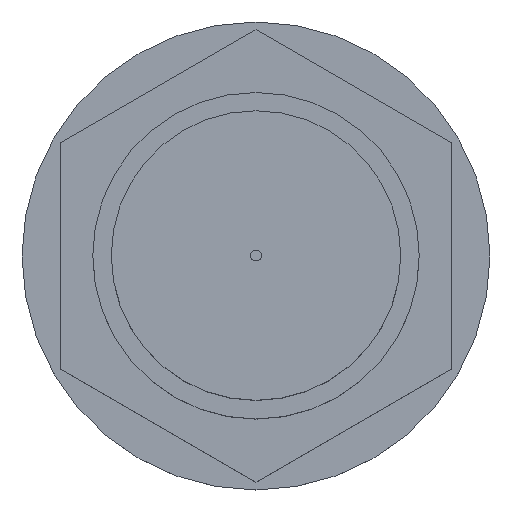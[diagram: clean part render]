
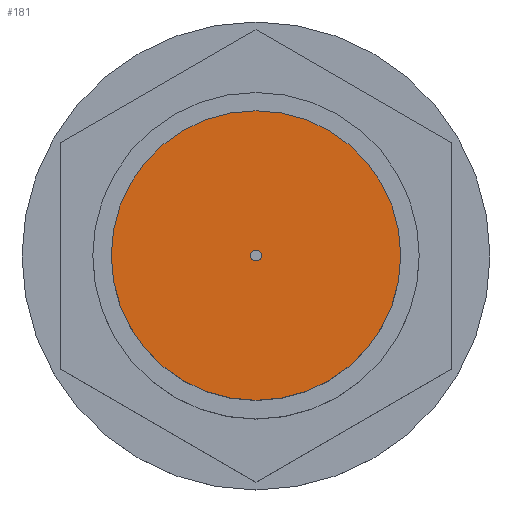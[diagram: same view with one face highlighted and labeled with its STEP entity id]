
A CAD part, top view. The second image highlights one B-rep face of the part: STEP entity #181.
In plain terms, the highlighted planar face has unit normal (0, 0, 1) as drawn and (-1, 0, 0) by its records, which use the part's own axes.
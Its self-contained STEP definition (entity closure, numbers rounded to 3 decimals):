
#21 = VERTEX_POINT ( 'NONE', #1221 ) ;
#23 = EDGE_CURVE ( 'NONE', #24, #21, #1220, .T. ) ;
#24 = VERTEX_POINT ( 'NONE', #1215 ) ;
#52 = VERTEX_POINT ( 'NONE', #513 ) ;
#95 = EDGE_LOOP ( 'NONE', ( #96, #97 ) ) ;
#96 = ORIENTED_EDGE ( 'NONE', *, *, #23, .T. ) ;
#97 = ORIENTED_EDGE ( 'NONE', *, *, #98, .T. ) ;
#98 = EDGE_CURVE ( 'NONE', #21, #24, #638, .T. ) ;
#153 = VERTEX_POINT ( 'NONE', #682 ) ;
#155 = EDGE_CURVE ( 'NONE', #153, #52, #680, .T. ) ;
#181 = ADVANCED_FACE ( 'NONE', ( #604, #606 ), #611, .F. ) ;
#182 = EDGE_LOOP ( 'NONE', ( #183, #185 ) ) ;
#183 = ORIENTED_EDGE ( 'NONE', *, *, #184, .F. ) ;
#184 = EDGE_CURVE ( 'NONE', #52, #153, #600, .T. ) ;
#185 = ORIENTED_EDGE ( 'NONE', *, *, #155, .F. ) ;
#513 = CARTESIAN_POINT ( 'NONE',  ( 0., 0., 13.3 ) ) ;
#596 = DIRECTION ( 'NONE',  ( 0., 0., -1. ) ) ;
#597 = DIRECTION ( 'NONE',  ( 1., 0., 0. ) ) ;
#598 = CARTESIAN_POINT ( 'NONE',  ( 0., 0., 0. ) ) ;
#599 = AXIS2_PLACEMENT_3D ( 'NONE', #598, #597, #596 ) ;
#600 = CIRCLE ( 'NONE', #599, 13.3 ) ;
#601 = DIRECTION ( 'NONE',  ( 0., 0., -1. ) ) ;
#602 = DIRECTION ( 'NONE',  ( 1., 0., 0. ) ) ;
#603 = CARTESIAN_POINT ( 'NONE',  ( 0., 0., 0. ) ) ;
#604 = FACE_OUTER_BOUND ( 'NONE', #182, .T. ) ;
#605 = AXIS2_PLACEMENT_3D ( 'NONE', #603, #602, #601 ) ;
#606 = FACE_BOUND ( 'NONE', #95, .T. ) ;
#611 = PLANE ( 'NONE',  #605 ) ;
#634 = DIRECTION ( 'NONE',  ( 0., 0., -1. ) ) ;
#635 = DIRECTION ( 'NONE',  ( 1., 0., 0. ) ) ;
#636 = CARTESIAN_POINT ( 'NONE',  ( 0., 0., 0. ) ) ;
#637 = AXIS2_PLACEMENT_3D ( 'NONE', #636, #635, #634 ) ;
#638 = CIRCLE ( 'NONE', #637, 0.5 ) ;
#676 = DIRECTION ( 'NONE',  ( 0., 0., -1. ) ) ;
#677 = DIRECTION ( 'NONE',  ( 1., 0., 0. ) ) ;
#678 = CARTESIAN_POINT ( 'NONE',  ( 0., 0., 0. ) ) ;
#679 = AXIS2_PLACEMENT_3D ( 'NONE', #678, #677, #676 ) ;
#680 = CIRCLE ( 'NONE', #679, 13.3 ) ;
#682 = CARTESIAN_POINT ( 'NONE',  ( 0., 0., -13.3 ) ) ;
#1215 = CARTESIAN_POINT ( 'NONE',  ( 0., 0., 0.5 ) ) ;
#1216 = DIRECTION ( 'NONE',  ( 0., 0., -1. ) ) ;
#1217 = DIRECTION ( 'NONE',  ( 1., 0., 0. ) ) ;
#1218 = CARTESIAN_POINT ( 'NONE',  ( 0., 0., 0. ) ) ;
#1219 = AXIS2_PLACEMENT_3D ( 'NONE', #1218, #1217, #1216 ) ;
#1220 = CIRCLE ( 'NONE', #1219, 0.5 ) ;
#1221 = CARTESIAN_POINT ( 'NONE',  ( 0., 0., -0.5 ) ) ;
